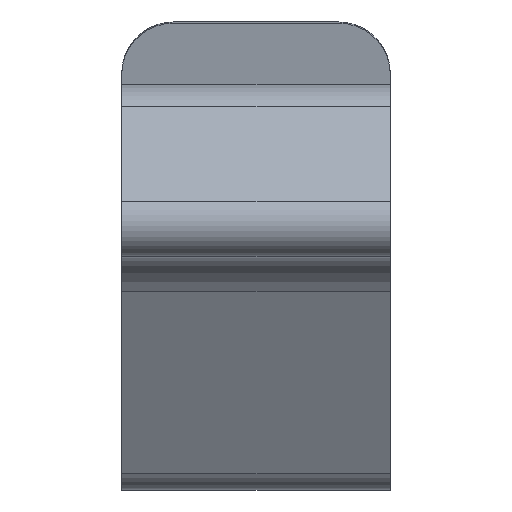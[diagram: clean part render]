
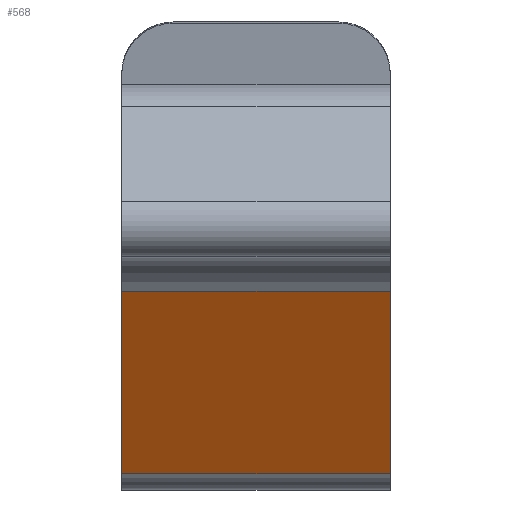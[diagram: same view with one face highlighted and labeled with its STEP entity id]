
A CAD part, top view. The second image highlights one B-rep face of the part: STEP entity #568.
In plain terms, the highlighted planar face has unit normal (0, -0.5, 0.866).
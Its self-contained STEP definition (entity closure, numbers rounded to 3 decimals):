
#31 = VECTOR ( 'NONE', #961, 1000. ) ;
#58 = DIRECTION ( 'NONE',  ( 1., 0., 0. ) ) ;
#70 = EDGE_CURVE ( 'NONE', #253, #1101, #578, .T. ) ;
#161 = CARTESIAN_POINT ( 'NONE',  ( 7.8, -6.496, -19.39 ) ) ;
#253 = VERTEX_POINT ( 'NONE', #1270 ) ;
#259 = DIRECTION ( 'NONE',  ( 0., 0.866, 0.5 ) ) ;
#283 = CARTESIAN_POINT ( 'NONE',  ( 0., -6.496, -19.39 ) ) ;
#301 = ORIENTED_EDGE ( 'NONE', *, *, #799, .T. ) ;
#302 = CARTESIAN_POINT ( 'NONE',  ( 0., -1.2, -16.332 ) ) ;
#366 = CARTESIAN_POINT ( 'NONE',  ( 7.8, -1.2, -16.332 ) ) ;
#402 = EDGE_LOOP ( 'NONE', ( #1068, #873, #301, #1078 ) ) ;
#432 = VERTEX_POINT ( 'NONE', #366 ) ;
#444 = VERTEX_POINT ( 'NONE', #161 ) ;
#446 = LINE ( 'NONE', #1247, #1075 ) ;
#568 = ADVANCED_FACE ( 'NONE', ( #1305 ), #1236, .T. ) ;
#578 = LINE ( 'NONE', #1254, #31 ) ;
#582 = EDGE_CURVE ( 'NONE', #444, #432, #1259, .T. ) ;
#611 = DIRECTION ( 'NONE',  ( 0., -0.5, 0.866 ) ) ;
#674 = VECTOR ( 'NONE', #58, 1000. ) ;
#675 = VECTOR ( 'NONE', #259, 1000. ) ;
#712 = AXIS2_PLACEMENT_3D ( 'NONE', #1133, #611, #714 ) ;
#714 = DIRECTION ( 'NONE',  ( 0., -0.866, -0.5 ) ) ;
#734 = LINE ( 'NONE', #283, #674 ) ;
#799 = EDGE_CURVE ( 'NONE', #253, #444, #734, .T. ) ;
#873 = ORIENTED_EDGE ( 'NONE', *, *, #70, .F. ) ;
#935 = DIRECTION ( 'NONE',  ( 1., 0., 0. ) ) ;
#961 = DIRECTION ( 'NONE',  ( 0., 0.866, 0.5 ) ) ;
#1068 = ORIENTED_EDGE ( 'NONE', *, *, #1145, .F. ) ;
#1075 = VECTOR ( 'NONE', #935, 1000. ) ;
#1078 = ORIENTED_EDGE ( 'NONE', *, *, #582, .T. ) ;
#1080 = CARTESIAN_POINT ( 'NONE',  ( 7.8, -13.844, -23.633 ) ) ;
#1101 = VERTEX_POINT ( 'NONE', #302 ) ;
#1133 = CARTESIAN_POINT ( 'NONE',  ( 0., -13.844, -23.633 ) ) ;
#1145 = EDGE_CURVE ( 'NONE', #1101, #432, #446, .T. ) ;
#1236 = PLANE ( 'NONE',  #712 ) ;
#1247 = CARTESIAN_POINT ( 'NONE',  ( 0., -1.2, -16.332 ) ) ;
#1254 = CARTESIAN_POINT ( 'NONE',  ( 0., -13.844, -23.633 ) ) ;
#1259 = LINE ( 'NONE', #1080, #675 ) ;
#1270 = CARTESIAN_POINT ( 'NONE',  ( 0., -6.496, -19.39 ) ) ;
#1305 = FACE_OUTER_BOUND ( 'NONE', #402, .T. ) ;
